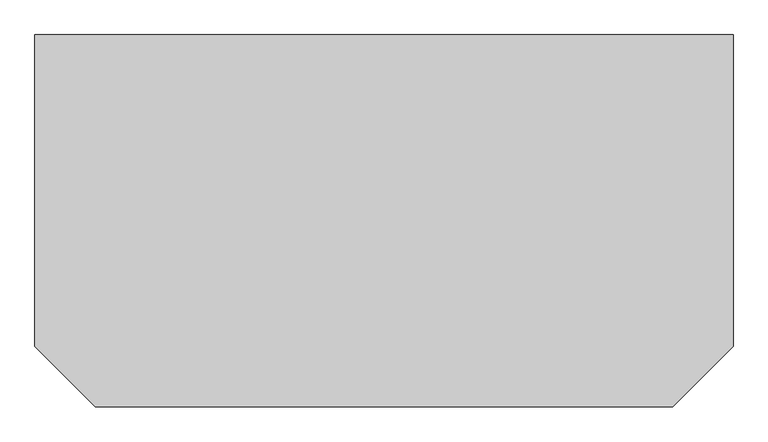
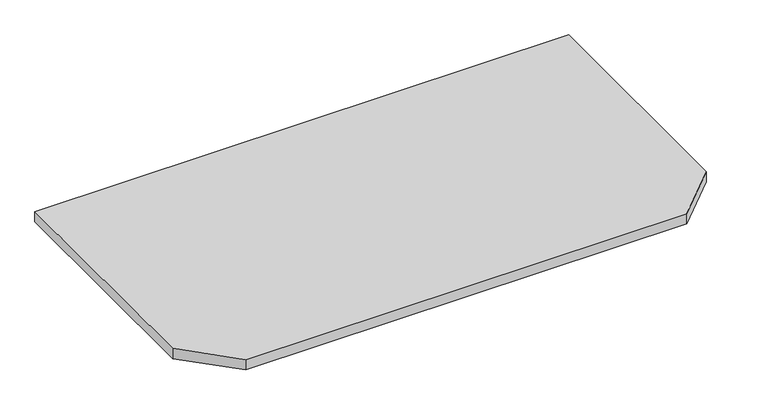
"""IFC4 building model written with IfcOpenShell, lengths in millimetres: furniture geometry, BIMHealth-Worktop_Corner_Chamfered-LOD2A-v1 : BIMHealth-Worktop_Corner_Chamfered-LOD2A-v1."""

from ifc_helpers import new_model, si_unit, frame, origin, place, context, project, spatial, polyline, outline, extrude, source, transform, mapped, element, save


def furniture_31328e1a(model_context):
    return source(origin(), model_context, "Body", "SweptSolid", [
        extrude(outline(polyline([(1370.0, -24.1168748), (130.0, -24.1168748), (0.0, 105.8831252), (0.0, 775.8831252), (1500.0, 775.8831252), (1500.0, 105.8831252), (1370.0, -24.1168748)])), frame((0.0, 0.0, 720.0), z_axis=(0.0, 0.0, 1.0), x_axis=(1.0, 0.0, 0.0)), (0.0, 0.0, 1.0), 30.0),
    ])


if __name__ == "__main__":
    model = new_model("IFC4")
    model_context = context("Model", 3, world=origin())
    ifc_project = project(units=[si_unit("LENGTHUNIT", "METRE", prefix="MILLI")], contexts=[model_context])
    site = spatial("IfcSite", under=ifc_project)
    building = spatial("IfcBuilding", under=site)
    placement = place(None, origin())
    furniture_shape = furniture_31328e1a(model_context)
    element("IfcFurniture", 1, ObjectType="BIMHealth-Worktop_Corner_Chamfered-LOD2A-v1 : BIMHealth-Worktop_Corner_Chamfered-LOD2A-v1", at=placement, inside=building, context=model_context, shape_type="MappedRepresentation", body=[
        mapped(furniture_shape, transform((0.0, 0.0, 0.0), x_axis=(1.0, 0.0, 0.0), y_axis=(0.0, 1.0, 0.0), z_axis=(0.0, 0.0, 1.0))),
    ])
    save(model, "model.ifc")
